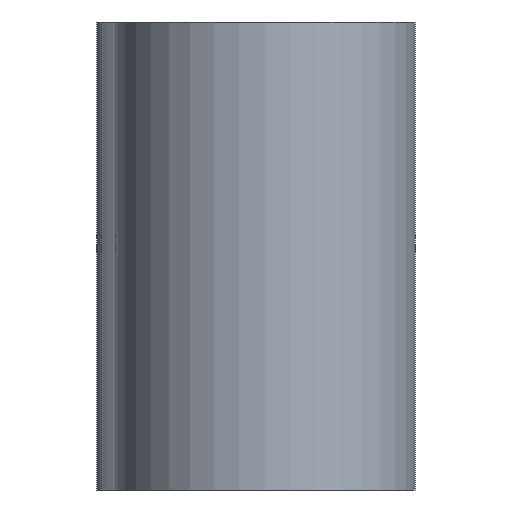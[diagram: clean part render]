
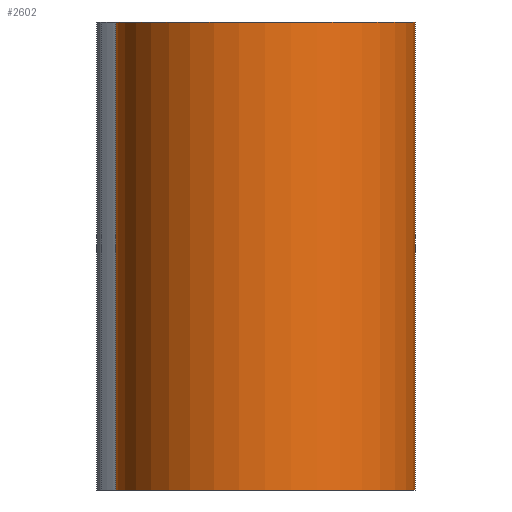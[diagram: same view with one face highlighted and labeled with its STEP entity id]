
A CAD part, left-side view. The second image highlights one B-rep face of the part: STEP entity #2602.
In plain terms, the highlighted cylindrical face has radius 8 mm (diameter 16 mm), a partial arc.
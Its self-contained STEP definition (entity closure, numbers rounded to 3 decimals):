
#1927=CARTESIAN_POINT('',(-13.,5.5,0.));
#1928=DIRECTION('',(0.,0.,-1.));
#1929=DIRECTION('',(0.,-1.,0.));
#1930=AXIS2_PLACEMENT_3D('',#1927,#1928,#1929);
#2164=CARTESIAN_POINT('',(-13.,5.5,25.));
#2165=DIRECTION('',(0.,0.,-1.));
#2166=DIRECTION('',(0.,-1.,0.));
#2167=AXIS2_PLACEMENT_3D('',#2164,#2165,#2166);
#2179=DIRECTION('',(0.,0.,1.));
#2180=VECTOR('',#2179,25.);
#2181=CARTESIAN_POINT('',(-13.,13.5,0.));
#2182=LINE('',#2181,#2180);
#2209=DIRECTION('',(0.,0.,1.));
#2210=VECTOR('',#2209,25.);
#2211=CARTESIAN_POINT('',(-13.,-2.5,0.));
#2212=LINE('',#2211,#2210);
#2289=CARTESIAN_POINT('',(-13.,-2.5,0.));
#2290=CARTESIAN_POINT('',(-13.,13.5,0.));
#2291=VERTEX_POINT('',#2289);
#2292=VERTEX_POINT('',#2290);
#2309=CARTESIAN_POINT('',(-13.,-2.5,25.));
#2310=CARTESIAN_POINT('',(-13.,13.5,25.));
#2311=VERTEX_POINT('',#2309);
#2312=VERTEX_POINT('',#2310);
#2590=CARTESIAN_POINT('',(-13.,5.5,0.));
#2591=DIRECTION('',(0.,0.,-1.));
#2592=DIRECTION('',(-1.,0.,0.));
#2593=AXIS2_PLACEMENT_3D('',#2590,#2591,#2592);
#2594=CYLINDRICAL_SURFACE('',#2593,8.);
#2595=ORIENTED_EDGE('',*,*,#2380,.T.);
#2596=ORIENTED_EDGE('',*,*,#2559,.T.);
#2597=ORIENTED_EDGE('',*,*,#2531,.F.);
#2599=ORIENTED_EDGE('',*,*,#2598,.F.);
#2600=EDGE_LOOP('',(#2595,#2596,#2597,#2599));
#2601=FACE_OUTER_BOUND('',#2600,.F.);
#2602=ADVANCED_FACE('',(#2601),#2594,.T.);
#1931=CIRCLE('',#1930,8.);
#2168=CIRCLE('',#2167,8.);
#2380=EDGE_CURVE('',#2291,#2292,#1931,.T.);
#2531=EDGE_CURVE('',#2311,#2312,#2168,.T.);
#2559=EDGE_CURVE('',#2292,#2312,#2182,.T.);
#2598=EDGE_CURVE('',#2291,#2311,#2212,.T.);
